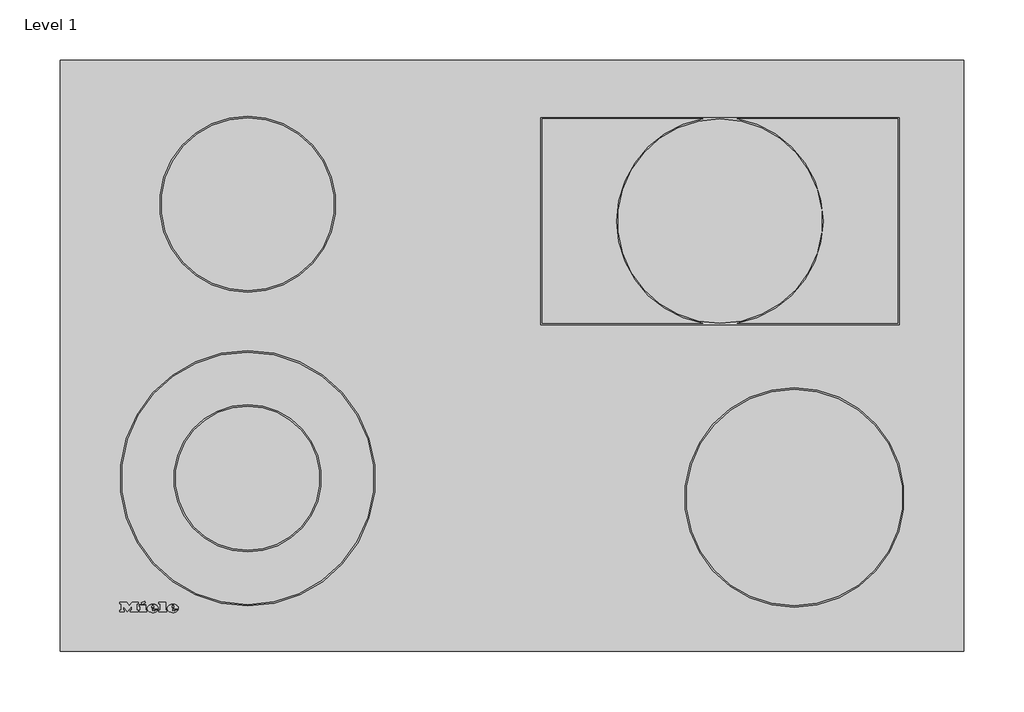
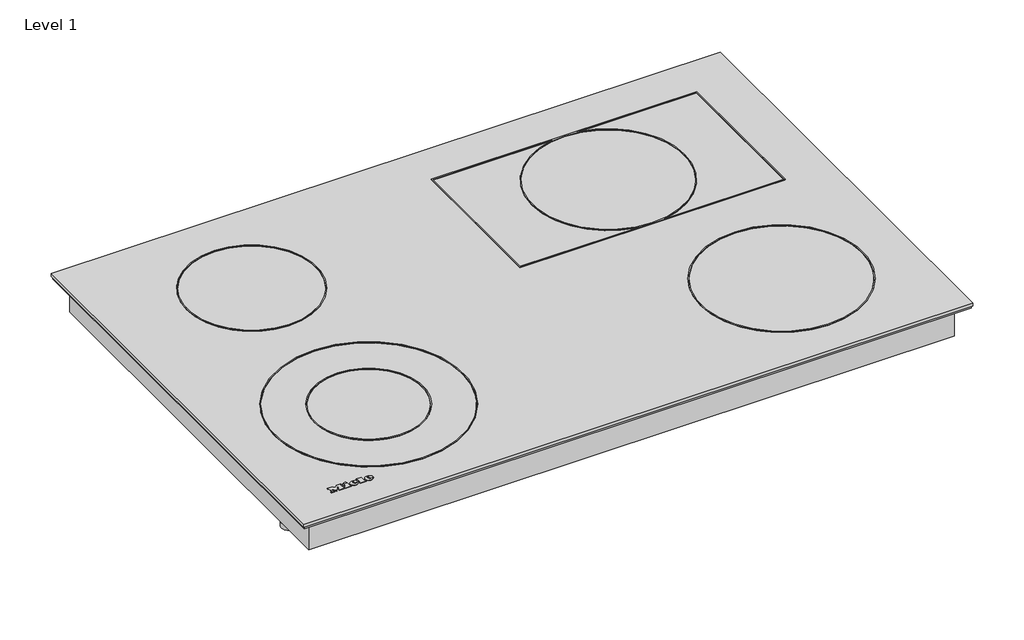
# One storey: 1 proxy.
"""IFC4 building model written with IfcOpenShell, lengths in millimetres."""

from ifc_helpers import new_model, si_unit, origin, place, context, project, spatial, transform, mapped, element, save
from components import specialty_equipment_642be2a8

model = new_model("IFC4")

# Units and contexts
model_context = context("Model", 3, world=origin())
ifc_project = project(units=[si_unit("LENGTHUNIT", "METRE", prefix="MILLI")], contexts=[model_context])

# Site, building, storey
site = spatial("IfcSite", under=ifc_project)
building = spatial("IfcBuilding", under=site)
storey = spatial("IfcBuildingStorey", under=building, Name="Level 1", Elevation=0.0)

# Proxy
placement = place(None, origin())
specialty_equipment_shape = specialty_equipment_642be2a8(model_context)
element("IfcBuildingElementProxy", 1, Name="10941480_RU_KM6542FL : 26654270_RU_10941480_KM6542FL", ObjectType="10941480_RU_KM6542FL : 26654270_RU_10941480_KM6542FL", at=placement, inside=storey, context=model_context, shape_type="MappedRepresentation", body=[
    mapped(specialty_equipment_shape, transform((0.0, 0.0, 0.0), x_axis=(1.0, 0.0, 0.0), y_axis=(0.0, 1.0, 0.0), z_axis=(0.0, 0.0, 1.0))),
])

save(model, "model.ifc")
